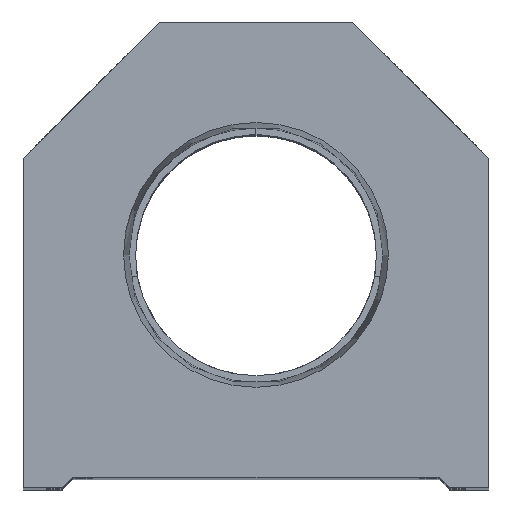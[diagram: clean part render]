
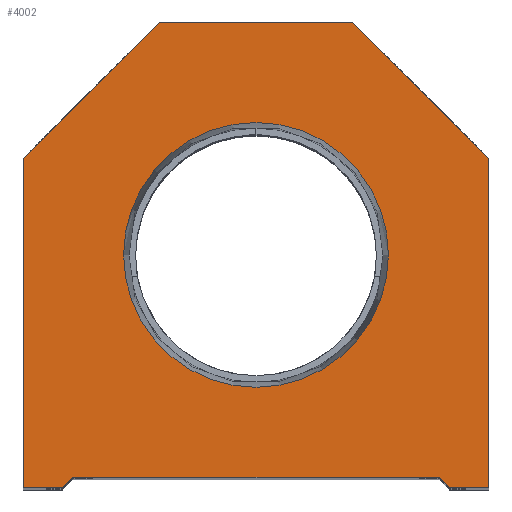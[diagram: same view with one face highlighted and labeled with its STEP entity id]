
A CAD part, top view. The second image highlights one B-rep face of the part: STEP entity #4002.
In plain terms, the highlighted planar face has unit normal (0, 0, 1).
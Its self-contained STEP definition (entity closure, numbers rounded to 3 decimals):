
#470 = CARTESIAN_POINT ( 'NONE',  ( 22.25, 0., 0. ) ) ;
#567 = AXIS2_PLACEMENT_3D ( 'NONE', #9840, #9725, #6126 ) ;
#1040 = CARTESIAN_POINT ( 'NONE',  ( 12.647, 22.25, 0. ) ) ;
#1204 = CARTESIAN_POINT ( 'NONE',  ( -12.647, 22.25, 0. ) ) ;
#1527 = CARTESIAN_POINT ( 'NONE',  ( -17.5, 1., 0. ) ) ;
#1529 = DIRECTION ( 'NONE',  ( -0.707, -0.707, 0. ) ) ;
#1610 = CARTESIAN_POINT ( 'NONE',  ( 9.25, 44.5, 0. ) ) ;
#1836 = EDGE_CURVE ( 'NONE', #9549, #14170, #13144, .T. ) ;
#1862 = EDGE_CURVE ( 'NONE', #16282, #11415, #19646, .T. ) ;
#2574 = ORIENTED_EDGE ( 'NONE', *, *, #3949, .F. ) ;
#2704 = CARTESIAN_POINT ( 'NONE',  ( 22.25, 31.5, 0. ) ) ;
#2810 = EDGE_CURVE ( 'NONE', #5012, #12014, #10444, .T. ) ;
#3111 = EDGE_CURVE ( 'NONE', #16066, #9549, #16233, .T. ) ;
#3185 = ORIENTED_EDGE ( 'NONE', *, *, #21366, .T. ) ;
#3458 = DIRECTION ( 'NONE',  ( 0., 0., 1. ) ) ;
#3574 = VECTOR ( 'NONE', #12855, 1000. ) ;
#3795 = VERTEX_POINT ( 'NONE', #11579 ) ;
#3949 = EDGE_CURVE ( 'NONE', #12014, #5012, #5340, .T. ) ;
#4002 = ADVANCED_FACE ( 'NONE', ( #9613, #11557 ), #21825, .T. ) ;
#4005 = ORIENTED_EDGE ( 'NONE', *, *, #1836, .T. ) ;
#4070 = LINE ( 'NONE', #13177, #10964 ) ;
#4605 = CARTESIAN_POINT ( 'NONE',  ( 22.25, 31.5, 0. ) ) ;
#4618 = CARTESIAN_POINT ( 'NONE',  ( 17.5, 1., 0. ) ) ;
#5012 = VERTEX_POINT ( 'NONE', #1040 ) ;
#5107 = CARTESIAN_POINT ( 'NONE',  ( -22.25, 31.5, 0. ) ) ;
#5118 = ORIENTED_EDGE ( 'NONE', *, *, #5226, .T. ) ;
#5226 = EDGE_CURVE ( 'NONE', #11700, #3795, #10254, .T. ) ;
#5340 = CIRCLE ( 'NONE', #13082, 12.647 ) ;
#5817 = LINE ( 'NONE', #20249, #3574 ) ;
#6126 = DIRECTION ( 'NONE',  ( 1., 0., 0. ) ) ;
#6213 = EDGE_CURVE ( 'NONE', #3795, #12021, #15671, .T. ) ;
#6256 = CARTESIAN_POINT ( 'NONE',  ( 9.25, 9.25, 0. ) ) ;
#6850 = VECTOR ( 'NONE', #8667, 1000. ) ;
#7070 = ORIENTED_EDGE ( 'NONE', *, *, #8548, .T. ) ;
#7137 = AXIS2_PLACEMENT_3D ( 'NONE', #21296, #16178, #19348 ) ;
#7518 = VECTOR ( 'NONE', #14732, 1000. ) ;
#8377 = VERTEX_POINT ( 'NONE', #4618 ) ;
#8548 = EDGE_CURVE ( 'NONE', #12021, #16066, #21049, .T. ) ;
#8667 = DIRECTION ( 'NONE',  ( -1., 0., 0. ) ) ;
#8855 = EDGE_LOOP ( 'NONE', ( #10999, #2574 ) ) ;
#8956 = VECTOR ( 'NONE', #16581, 1000. ) ;
#9180 = EDGE_CURVE ( 'NONE', #8377, #16282, #17031, .T. ) ;
#9194 = CARTESIAN_POINT ( 'NONE',  ( -22.25, 0., 0. ) ) ;
#9549 = VERTEX_POINT ( 'NONE', #9194 ) ;
#9613 = FACE_BOUND ( 'NONE', #8855, .T. ) ;
#9725 = DIRECTION ( 'NONE',  ( 0., 0., 1. ) ) ;
#9840 = CARTESIAN_POINT ( 'NONE',  ( 0., 0., 0. ) ) ;
#9893 = DIRECTION ( 'NONE',  ( 1., 0., 0. ) ) ;
#10173 = DIRECTION ( 'NONE',  ( 0.707, -0.707, 0. ) ) ;
#10254 = LINE ( 'NONE', #4605, #11990 ) ;
#10353 = ORIENTED_EDGE ( 'NONE', *, *, #9180, .T. ) ;
#10444 = CIRCLE ( 'NONE', #7137, 12.647 ) ;
#10964 = VECTOR ( 'NONE', #12956, 1000. ) ;
#10999 = ORIENTED_EDGE ( 'NONE', *, *, #2810, .F. ) ;
#11125 = ORIENTED_EDGE ( 'NONE', *, *, #15806, .T. ) ;
#11415 = VERTEX_POINT ( 'NONE', #470 ) ;
#11557 = FACE_OUTER_BOUND ( 'NONE', #15744, .T. ) ;
#11579 = CARTESIAN_POINT ( 'NONE',  ( 9.25, 44.5, 0. ) ) ;
#11676 = ORIENTED_EDGE ( 'NONE', *, *, #3111, .T. ) ;
#11700 = VERTEX_POINT ( 'NONE', #2704 ) ;
#11990 = VECTOR ( 'NONE', #15419, 1000. ) ;
#12014 = VERTEX_POINT ( 'NONE', #1204 ) ;
#12021 = VERTEX_POINT ( 'NONE', #12042 ) ;
#12042 = CARTESIAN_POINT ( 'NONE',  ( -9.25, 44.5, 0. ) ) ;
#12714 = VECTOR ( 'NONE', #9893, 1000. ) ;
#12727 = CARTESIAN_POINT ( 'NONE',  ( -18.5, 0., 0. ) ) ;
#12855 = DIRECTION ( 'NONE',  ( 0., 1., 0. ) ) ;
#12956 = DIRECTION ( 'NONE',  ( 0.707, 0.707, 0. ) ) ;
#13029 = CARTESIAN_POINT ( 'NONE',  ( 17.5, 0., 0. ) ) ;
#13082 = AXIS2_PLACEMENT_3D ( 'NONE', #19201, #3458, #17502 ) ;
#13090 = ORIENTED_EDGE ( 'NONE', *, *, #6213, .T. ) ;
#13144 = LINE ( 'NONE', #16141, #18454 ) ;
#13177 = CARTESIAN_POINT ( 'NONE',  ( -9.25, 9.25, 0. ) ) ;
#13631 = CARTESIAN_POINT ( 'NONE',  ( 18.5, 0., 0. ) ) ;
#14170 = VERTEX_POINT ( 'NONE', #12727 ) ;
#14497 = CARTESIAN_POINT ( 'NONE',  ( -22.25, 0., 0. ) ) ;
#14732 = DIRECTION ( 'NONE',  ( 0., -1., 0. ) ) ;
#15040 = LINE ( 'NONE', #21993, #12714 ) ;
#15419 = DIRECTION ( 'NONE',  ( -0.707, 0.707, 0. ) ) ;
#15671 = LINE ( 'NONE', #1610, #6850 ) ;
#15744 = EDGE_LOOP ( 'NONE', ( #4005, #21731, #11125, #10353, #18767, #3185, #5118, #13090, #7070, #11676 ) ) ;
#15806 = EDGE_CURVE ( 'NONE', #21400, #8377, #15040, .T. ) ;
#16066 = VERTEX_POINT ( 'NONE', #16173 ) ;
#16141 = CARTESIAN_POINT ( 'NONE',  ( -17.5, 0., 0. ) ) ;
#16173 = CARTESIAN_POINT ( 'NONE',  ( -22.25, 31.5, 0. ) ) ;
#16178 = DIRECTION ( 'NONE',  ( 0., 0., 1. ) ) ;
#16233 = LINE ( 'NONE', #14497, #7518 ) ;
#16282 = VERTEX_POINT ( 'NONE', #13631 ) ;
#16581 = DIRECTION ( 'NONE',  ( 1., 0., 0. ) ) ;
#17031 = LINE ( 'NONE', #6256, #20516 ) ;
#17502 = DIRECTION ( 'NONE',  ( 1., 0., 0. ) ) ;
#18454 = VECTOR ( 'NONE', #21602, 1000. ) ;
#18767 = ORIENTED_EDGE ( 'NONE', *, *, #1862, .T. ) ;
#19014 = EDGE_CURVE ( 'NONE', #14170, #21400, #4070, .T. ) ;
#19201 = CARTESIAN_POINT ( 'NONE',  ( 0., 22.25, 0. ) ) ;
#19348 = DIRECTION ( 'NONE',  ( 1., 0., 0. ) ) ;
#19646 = LINE ( 'NONE', #13029, #8956 ) ;
#20249 = CARTESIAN_POINT ( 'NONE',  ( 22.25, 0., 0. ) ) ;
#20516 = VECTOR ( 'NONE', #10173, 1000. ) ;
#21049 = LINE ( 'NONE', #5107, #21965 ) ;
#21296 = CARTESIAN_POINT ( 'NONE',  ( 0., 22.25, 0. ) ) ;
#21366 = EDGE_CURVE ( 'NONE', #11415, #11700, #5817, .T. ) ;
#21400 = VERTEX_POINT ( 'NONE', #1527 ) ;
#21602 = DIRECTION ( 'NONE',  ( 1., 0., 0. ) ) ;
#21731 = ORIENTED_EDGE ( 'NONE', *, *, #19014, .T. ) ;
#21825 = PLANE ( 'NONE',  #567 ) ;
#21965 = VECTOR ( 'NONE', #1529, 1000. ) ;
#21993 = CARTESIAN_POINT ( 'NONE',  ( -17.5, 1., 0. ) ) ;
